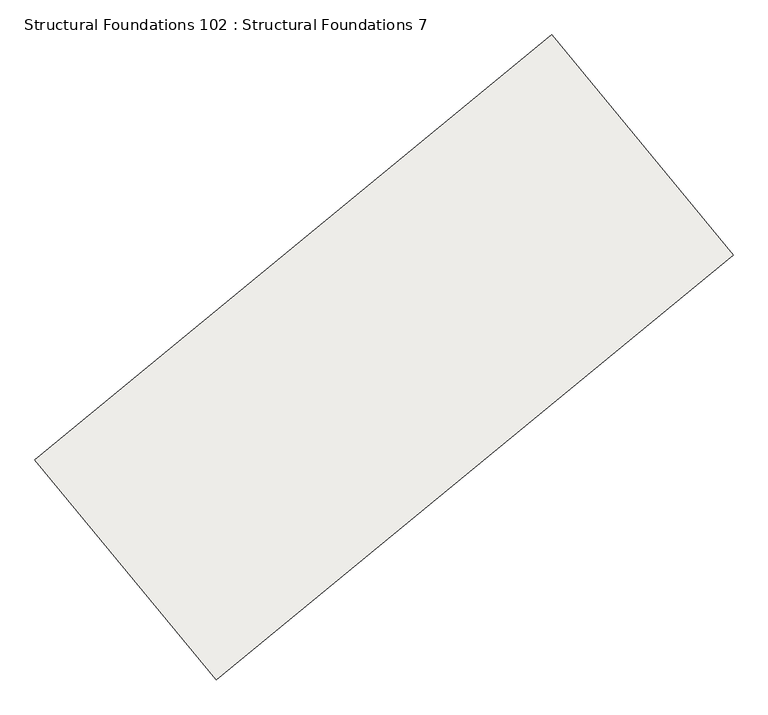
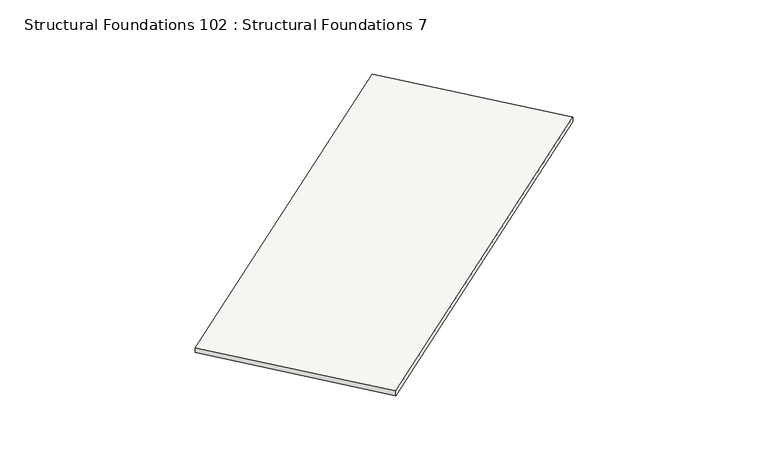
"""IFC4 building model written with IfcOpenShell, lengths in millimetres: slab geometry, Structural Foundations 102 : Structural Foundations 7."""

from ifc_helpers import new_model, si_unit, frame, origin, place, context, project, spatial, polyline, outline, extrude, source, transform, mapped, element, save


def structural_foundations_102_structural_foundations_7_f77eb033(model_context):
    return source(origin(), model_context, "Body", "SweptSolid", [
        extrude(outline(polyline([(-50.0, 0.0), (50.0, 0.0), (-20.0, -8690.0), (-120.0, -8690.0), (-50.0, 0.0)])), frame((-310872.6219528, -463464.8233536, 633850.0), z_axis=(-0.6353361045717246, 0.7722357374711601, 0.0), x_axis=(0.0, 0.0, 1.0)), (0.0, 0.0, 1.0), 3700.0),
    ])


if __name__ == "__main__":
    model = new_model("IFC4")
    model_context = context("Model", 3, world=origin())
    ifc_project = project(units=[si_unit("LENGTHUNIT", "METRE", prefix="MILLI")], contexts=[model_context])
    site = spatial("IfcSite", under=ifc_project)
    building = spatial("IfcBuilding", under=site)
    placement = place(None, origin())
    structural_foundations_102_structural_foundations_7_shape = structural_foundations_102_structural_foundations_7_f77eb033(model_context)
    element("IfcSlab", 1, ObjectType="Structural Foundations 102 : Structural Foundations 7", at=placement, inside=building, context=model_context, shape_type="MappedRepresentation", body=[
        mapped(structural_foundations_102_structural_foundations_7_shape, transform((0.0, 0.0, 0.0), x_axis=(1.0, 0.0, 0.0), y_axis=(0.0, 1.0, 0.0), z_axis=(0.0, 0.0, 1.0))),
    ])
    save(model, "model.ifc")
